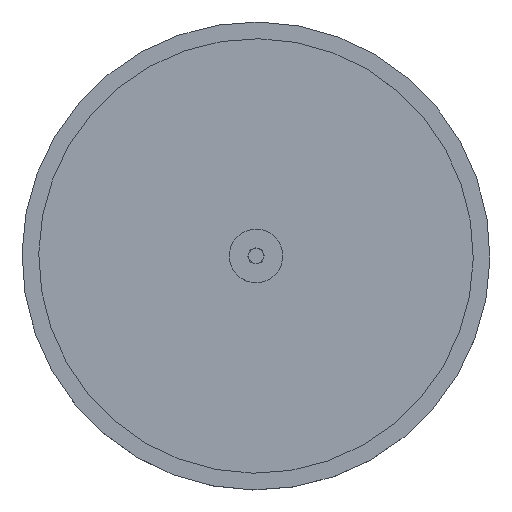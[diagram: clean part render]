
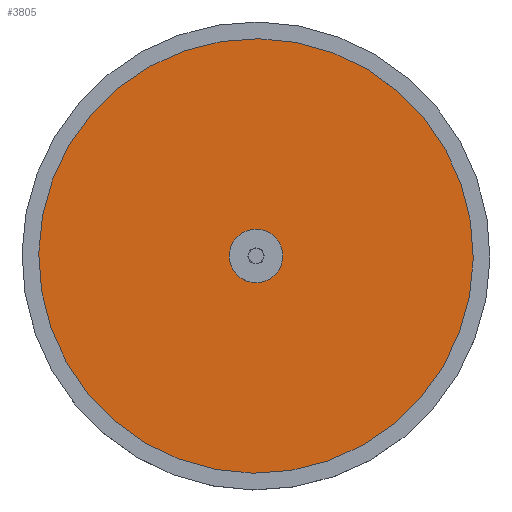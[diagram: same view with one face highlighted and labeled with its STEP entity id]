
A CAD part, top view. The second image highlights one B-rep face of the part: STEP entity #3805.
In plain terms, the highlighted planar face has unit normal (0, 0, 1) as drawn and (0, -1, 0) by its records, which use the part's own axes.
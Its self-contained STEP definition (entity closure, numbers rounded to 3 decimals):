
#350 = CARTESIAN_POINT ( 'NONE',  ( 0., 0., 0. ) ) ;
#725 = VERTEX_POINT ( 'NONE', #5134 ) ;
#990 = DIRECTION ( 'NONE',  ( 0., 0., 1. ) ) ;
#1378 = DIRECTION ( 'NONE',  ( 0., 0., 1. ) ) ;
#1461 = CARTESIAN_POINT ( 'NONE',  ( 0., 0., 165. ) ) ;
#1733 = CARTESIAN_POINT ( 'NONE',  ( 0., 0., 0. ) ) ;
#1781 = AXIS2_PLACEMENT_3D ( 'NONE', #2855, #4692, #2412 ) ;
#1917 = FACE_OUTER_BOUND ( 'NONE', #5093, .T. ) ;
#2098 = CIRCLE ( 'NONE', #5748, 165. ) ;
#2111 = VERTEX_POINT ( 'NONE', #1461 ) ;
#2167 = AXIS2_PLACEMENT_3D ( 'NONE', #1733, #3111, #5405 ) ;
#2296 = CIRCLE ( 'NONE', #4197, 5.25 ) ;
#2412 = DIRECTION ( 'NONE',  ( 0., 0., 1. ) ) ;
#2447 = EDGE_CURVE ( 'NONE', #4732, #725, #2673, .T. ) ;
#2471 = ORIENTED_EDGE ( 'NONE', *, *, #5149, .F. ) ;
#2532 = CIRCLE ( 'NONE', #1781, 165. ) ;
#2614 = DIRECTION ( 'NONE',  ( 0., 1., 0. ) ) ;
#2673 = CIRCLE ( 'NONE', #5744, 5.25 ) ;
#2768 = DIRECTION ( 'NONE',  ( 0., 1., 0. ) ) ;
#2855 = CARTESIAN_POINT ( 'NONE',  ( 0., 0., 0. ) ) ;
#3084 = DIRECTION ( 'NONE',  ( 0., 0., 1. ) ) ;
#3111 = DIRECTION ( 'NONE',  ( 0., 1., 0. ) ) ;
#3146 = VERTEX_POINT ( 'NONE', #5080 ) ;
#3318 = EDGE_LOOP ( 'NONE', ( #3768, #4174 ) ) ;
#3711 = EDGE_CURVE ( 'NONE', #725, #4732, #2296, .T. ) ;
#3768 = ORIENTED_EDGE ( 'NONE', *, *, #3711, .T. ) ;
#3805 = ADVANCED_FACE ( 'NONE', ( #1917, #5066 ), #4930, .F. ) ;
#3832 = ORIENTED_EDGE ( 'NONE', *, *, #5212, .F. ) ;
#4080 = CARTESIAN_POINT ( 'NONE',  ( 0., 0., 5.25 ) ) ;
#4151 = CARTESIAN_POINT ( 'NONE',  ( 0., 0., 0. ) ) ;
#4174 = ORIENTED_EDGE ( 'NONE', *, *, #2447, .T. ) ;
#4186 = CARTESIAN_POINT ( 'NONE',  ( 0., 0., 0. ) ) ;
#4197 = AXIS2_PLACEMENT_3D ( 'NONE', #4151, #2768, #1378 ) ;
#4692 = DIRECTION ( 'NONE',  ( 0., 1., 0. ) ) ;
#4732 = VERTEX_POINT ( 'NONE', #4080 ) ;
#4930 = PLANE ( 'NONE',  #2167 ) ;
#5066 = FACE_BOUND ( 'NONE', #3318, .T. ) ;
#5080 = CARTESIAN_POINT ( 'NONE',  ( 0., 0., -165. ) ) ;
#5093 = EDGE_LOOP ( 'NONE', ( #3832, #2471 ) ) ;
#5134 = CARTESIAN_POINT ( 'NONE',  ( 0., 0., -5.25 ) ) ;
#5144 = DIRECTION ( 'NONE',  ( 0., 1., 0. ) ) ;
#5149 = EDGE_CURVE ( 'NONE', #2111, #3146, #2098, .T. ) ;
#5212 = EDGE_CURVE ( 'NONE', #3146, #2111, #2532, .T. ) ;
#5405 = DIRECTION ( 'NONE',  ( 0., 0., 1. ) ) ;
#5744 = AXIS2_PLACEMENT_3D ( 'NONE', #4186, #5144, #990 ) ;
#5748 = AXIS2_PLACEMENT_3D ( 'NONE', #350, #2614, #3084 ) ;
